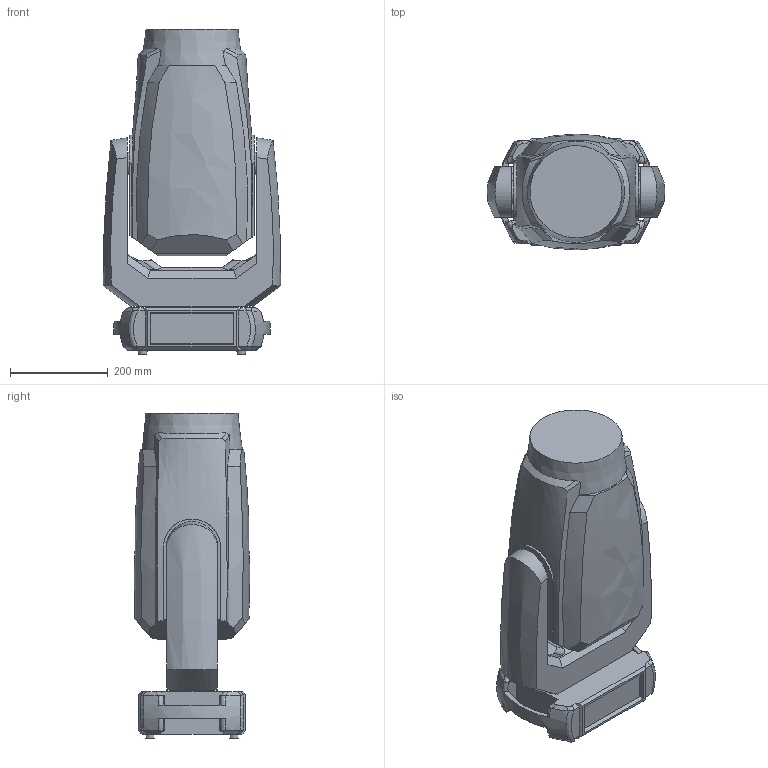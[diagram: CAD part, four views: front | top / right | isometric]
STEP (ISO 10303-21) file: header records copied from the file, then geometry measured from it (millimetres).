
FILE_DESCRIPTION(/* description */ ('Unknown'),/* implementation_level */ '2;1');
FILE_NAME(/* name */ '3D_Robin LedPOINTE',/* time_stamp */ '2024-09-16T13:17:19+02:00',/* author */ ('vaclavek'),/* organization */ ('ROBE lighting s.r.o.'),/* preprocessor_version */ 'ST-DEVELOPER v19.4',/* originating_system */ 'Solid Edge',/* authorisation */ 'Unknown');
FILE_SCHEMA (('AUTOMOTIVE_DESIGN {1 0 10303 214 3 1 1}'));
Length unit declared in the file: millimetre
Products named in the file (4): 3D_Robin LedPOINTE; LedPOINTE_base; LedPOINTE_arm; LedPOINTE_head
Assembly tree (3 placements, depth 2):
  3D_Robin LedPOINTE
    LedPOINTE_base
    LedPOINTE_arm
    LedPOINTE_head
Bounding box: 362.86 x 236.89 x 666.55 mm (x, y, z)
Volume: 30527937.8 mm3; surface area: 912490.3 mm2
Topology: 3 solids, 3 shells, 187 faces, 541 edges, 366 vertices
Faces by surface type: plane 87, bspline 79, cylinder 15, cone 6
Full cylindrical faces by diameter (mm): 46 x2, 53 x1, 60 x1
Entity records: 12273 total; most frequent: CARTESIAN_POINT 8143, ORIENTED_EDGE 1050, EDGE_CURVE 525, DIRECTION 484, VERTEX_POINT 360, B_SPLINE_CURVE_WITH_KNOTS 304, EDGE_LOOP 207, FACE_BOUND 207
